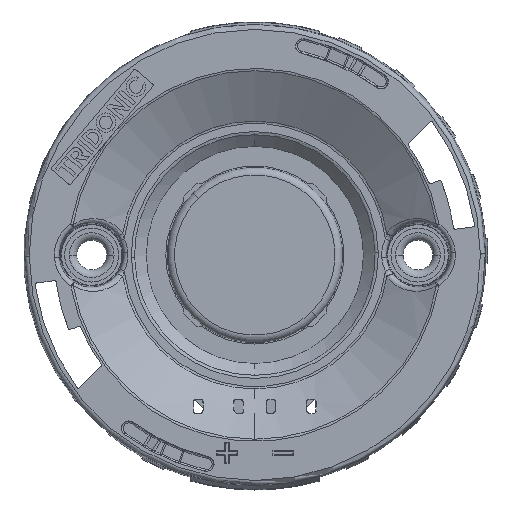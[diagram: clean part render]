
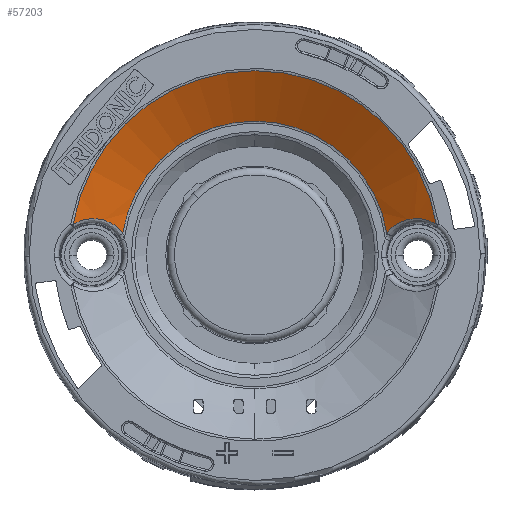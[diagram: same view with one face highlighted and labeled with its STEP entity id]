
A CAD part, top view. The second image highlights one B-rep face of the part: STEP entity #57203.
In plain terms, the highlighted conical face has half-angle 60 degrees and reference radius 17.065 mm.
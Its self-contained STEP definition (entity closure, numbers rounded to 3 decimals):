
#7611=CARTESIAN_POINT('',(0.,0.,6.733));
#7612=DIRECTION('',(0.,0.,-1.));
#7613=DIRECTION('',(0.001,1.,0.));
#7614=AXIS2_PLACEMENT_3D('',#7611,#7612,#7613);
#7619=CARTESIAN_POINT('',(0.,0.,6.733));
#7620=DIRECTION('',(0.,0.,-1.));
#7621=DIRECTION('',(0.,1.,0.));
#7622=AXIS2_PLACEMENT_3D('',#7619,#7620,#7621);
#7627=CARTESIAN_POINT('',(0.,0.,6.733));
#7628=DIRECTION('',(0.,0.,-1.));
#7629=DIRECTION('',(-0.986,0.166,0.));
#7630=AXIS2_PLACEMENT_3D('',#7627,#7628,#7629);
#8334=CARTESIAN_POINT('',(-14.174,2.344,3.617));
#8335=CARTESIAN_POINT('',(-14.291,2.492,3.698));
#8336=CARTESIAN_POINT('',(-14.521,2.76,3.856));
#8337=CARTESIAN_POINT('',(-14.905,3.087,4.111));
#8338=CARTESIAN_POINT('',(-15.188,3.283,4.294));
#8339=CARTESIAN_POINT('',(-15.6,3.523,4.556));
#8340=CARTESIAN_POINT('',(-16.152,3.736,4.894));
#8341=CARTESIAN_POINT('',(-16.452,3.806,5.072));
#8342=CARTESIAN_POINT('',(-16.76,3.877,5.255));
#8343=CARTESIAN_POINT('',(-17.456,3.928,5.653));
#8344=CARTESIAN_POINT('',(-18.076,3.854,5.993));
#8345=CARTESIAN_POINT('',(-18.706,3.697,6.331));
#8346=CARTESIAN_POINT('',(-19.219,3.443,6.595));
#8347=CARTESIAN_POINT('',(-19.489,3.28,6.733));
#8571=CARTESIAN_POINT('',(14.174,2.344,3.617));
#8576=CARTESIAN_POINT('',(-14.174,2.344,3.617));
#8586=CARTESIAN_POINT('',(0.,0.,3.617));
#8587=DIRECTION('',(0.,0.,1.));
#8588=DIRECTION('',(0.,1.,0.));
#8589=AXIS2_PLACEMENT_3D('',#8586,#8587,#8588);
#8594=CARTESIAN_POINT('',(0.,0.,3.617));
#8595=DIRECTION('',(0.,0.,1.));
#8596=DIRECTION('',(0.987,0.163,0.));
#8597=AXIS2_PLACEMENT_3D('',#8594,#8595,#8596);
#8612=CARTESIAN_POINT('',(14.174,2.344,3.617));
#8613=CARTESIAN_POINT('',(14.312,2.531,3.714));
#8614=CARTESIAN_POINT('',(14.641,2.883,3.937));
#8615=CARTESIAN_POINT('',(15.27,3.367,4.35));
#8616=CARTESIAN_POINT('',(16.122,3.746,4.879));
#8617=CARTESIAN_POINT('',(16.854,3.905,5.311));
#8618=CARTESIAN_POINT('',(17.79,3.92,5.84));
#8619=CARTESIAN_POINT('',(18.663,3.719,6.309));
#8620=CARTESIAN_POINT('',(19.22,3.451,6.597));
#8621=CARTESIAN_POINT('',(19.489,3.28,6.733));
#41167=VERTEX_POINT('',#8571);
#41191=VERTEX_POINT('',#8576);
#42286=VERTEX_POINT('',#8621);
#43246=VERTEX_POINT('',#8347);
#43526=CARTESIAN_POINT('',(0.,14.366,3.617));
#43527=VERTEX_POINT('',#43526);
#44283=CARTESIAN_POINT('',(0.,19.763,6.733));
#44284=VERTEX_POINT('',#44283);
#44285=CARTESIAN_POINT('',(0.018,19.763,
6.733));
#44286=VERTEX_POINT('',#44285);
#57188=CARTESIAN_POINT('',(0.,0.,5.175));
#57189=DIRECTION('',(0.,0.,1.));
#57190=DIRECTION('',(0.,-1.,0.));
#57191=AXIS2_PLACEMENT_3D('',#57188,#57189,#57190);
#57192=CONICAL_SURFACE('',#57191,17.065,60.);
#57193=ORIENTED_EDGE('',*,*,#57172,.T.);
#57194=ORIENTED_EDGE('',*,*,#56852,.T.);
#57195=ORIENTED_EDGE('',*,*,#56037,.T.);
#57196=ORIENTED_EDGE('',*,*,#56035,.T.);
#57197=ORIENTED_EDGE('',*,*,#56033,.T.);
#57199=ORIENTED_EDGE('',*,*,#57198,.F.);
#57200=ORIENTED_EDGE('',*,*,#57174,.T.);
#57201=EDGE_LOOP('',(#57193,#57194,#57195,#57196,#57197,#57199,#57200));
#57202=FACE_OUTER_BOUND('',#57201,.F.);
#7615=CIRCLE('',#7614,19.763);
#7623=CIRCLE('',#7622,19.763);
#7631=CIRCLE('',#7630,19.763);
#8348=B_SPLINE_CURVE_WITH_KNOTS('',3,(#8334,#8335,#8336,#8337,#8338,#8339,#8340,
#8341,#8342,#8343,#8344,#8345,#8346,#8347),.UNSPECIFIED.,.F.,.F.,(4,1,1,1,1,1,1,
1,1,1,1,4),(0.,0.091,0.182,0.273,
0.364,0.455,0.545,0.636,
0.727,0.818,0.909,1.),.UNSPECIFIED.);
#8590=CIRCLE('',#8589,14.366);
#8598=CIRCLE('',#8597,14.366);
#8622=B_SPLINE_CURVE_WITH_KNOTS('',3,(#8612,#8613,#8614,#8615,#8616,#8617,#8618,
#8619,#8620,#8621),.UNSPECIFIED.,.F.,.F.,(4,1,1,1,1,1,1,4),(0.,
0.143,0.286,0.429,0.571,
0.714,0.857,1.),.UNSPECIFIED.);
#56033=EDGE_CURVE('',#44286,#42286,#7615,.T.);
#56035=EDGE_CURVE('',#44284,#44286,#7623,.T.);
#56037=EDGE_CURVE('',#43246,#44284,#7631,.T.);
#56852=EDGE_CURVE('',#41191,#43246,#8348,.T.);
#57172=EDGE_CURVE('',#43527,#41191,#8590,.T.);
#57174=EDGE_CURVE('',#41167,#43527,#8598,.T.);
#57198=EDGE_CURVE('',#41167,#42286,#8622,.T.);
#57203=ADVANCED_FACE('',(#57202),#57192,.F.);
